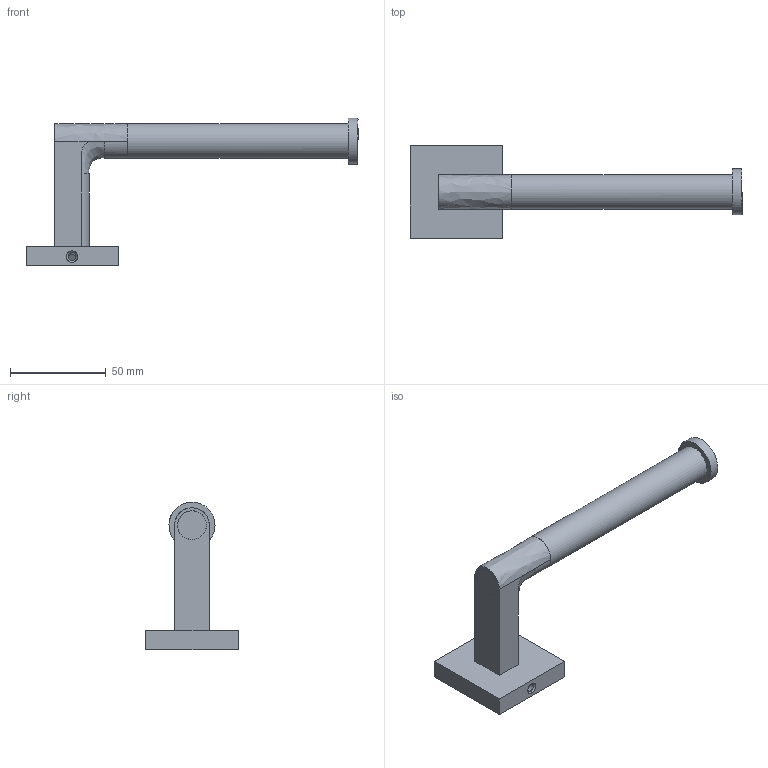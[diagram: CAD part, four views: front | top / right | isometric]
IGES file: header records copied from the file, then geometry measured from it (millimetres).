
Global section: file name: 81a4ed56-58bb-422f-8961-1975e1f61272; native system: unknown; preprocessor: unknown; author: unknown; organization: unknown; date: 20200108.104724; units: millimetre
Bounding box: 173 x 48 x 77 mm (x, y, z)
Volume: 33039.5 mm3; surface area: 38676.6 mm2
Topology: 8 solids, 10 shells, 248 faces, 706 edges, 490 vertices
Faces by surface type: bspline 248
